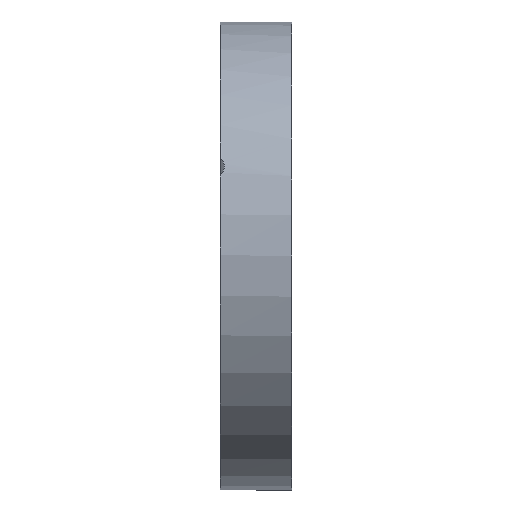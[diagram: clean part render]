
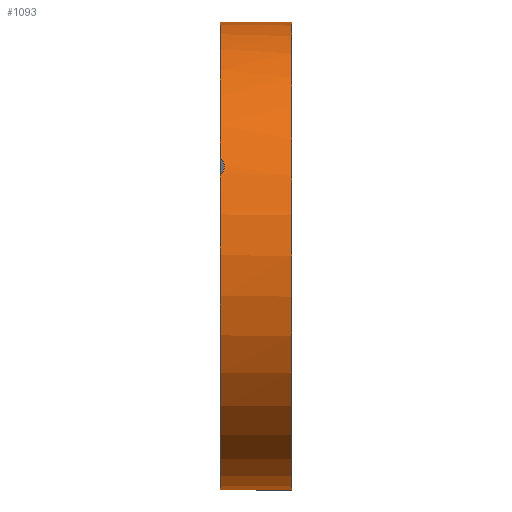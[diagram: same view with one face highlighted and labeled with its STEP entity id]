
A CAD part, left-side view. The second image highlights one B-rep face of the part: STEP entity #1093.
In plain terms, the highlighted cylindrical face has radius 57.15 mm (diameter 114.3 mm), a partial arc.
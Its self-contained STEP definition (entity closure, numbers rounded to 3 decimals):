
#42 = VERTEX_POINT ( 'NONE', #629 ) ;
#53 = CARTESIAN_POINT ( 'NONE',  ( -52.96, 16.522, 21.481 ) ) ;
#64 = CARTESIAN_POINT ( 'NONE',  ( -51.963, 17.342, 23.791 ) ) ;
#78 = EDGE_CURVE ( 'NONE', #1395, #878, #415, .T. ) ;
#88 = DIRECTION ( 'NONE',  ( 0., 1., 0. ) ) ;
#93 = ORIENTED_EDGE ( 'NONE', *, *, #196, .T. ) ;
#108 = DIRECTION ( 'NONE',  ( 0., 1., 0. ) ) ;
#113 = ORIENTED_EDGE ( 'NONE', *, *, #1027, .F. ) ;
#164 = LINE ( 'NONE', #1262, #1115 ) ;
#196 = EDGE_CURVE ( 'NONE', #1231, #42, #546, .T. ) ;
#226 = ORIENTED_EDGE ( 'NONE', *, *, #967, .F. ) ;
#236 = CYLINDRICAL_SURFACE ( 'NONE', #1225, 57.15 ) ;
#272 = DIRECTION ( 'NONE',  ( 0., 1., 0. ) ) ;
#288 = CARTESIAN_POINT ( 'NONE',  ( -53.566, 17.342, 19.921 ) ) ;
#295 = CARTESIAN_POINT ( 'NONE',  ( -53.512, 17.201, 20.066 ) ) ;
#307 = CIRCLE ( 'NONE', #1139, 57.15 ) ;
#322 = DIRECTION ( 'NONE',  ( 0., 1., 0. ) ) ;
#355 = DIRECTION ( 'NONE',  ( 0., 1., 0. ) ) ;
#403 = CARTESIAN_POINT ( 'NONE',  ( -53.113, 16.61, 21.098 ) ) ;
#414 = DIRECTION ( 'NONE',  ( 0., 0., 1. ) ) ;
#415 = CIRCLE ( 'NONE', #979, 57.15 ) ;
#490 = CARTESIAN_POINT ( 'NONE',  ( -53.615, 17.5, 19.788 ) ) ;
#501 = ORIENTED_EDGE ( 'NONE', *, *, #78, .F. ) ;
#503 = CARTESIAN_POINT ( 'NONE',  ( -52.88, 16.5, 21.677 ) ) ;
#532 = DIRECTION ( 'NONE',  ( 0., 0., 1. ) ) ;
#534 = CARTESIAN_POINT ( 'NONE',  ( 0., 0., -57.15 ) ) ;
#546 = LINE ( 'NONE', #780, #708 ) ;
#618 = VERTEX_POINT ( 'NONE', #534 ) ;
#629 = CARTESIAN_POINT ( 'NONE',  ( 0., 17.5, 57.15 ) ) ;
#634 = CARTESIAN_POINT ( 'NONE',  ( 0., 17.5, 0. ) ) ;
#640 = CARTESIAN_POINT ( 'NONE',  ( 0., 17.5, 0. ) ) ;
#659 = ORIENTED_EDGE ( 'NONE', *, *, #949, .T. ) ;
#694 = CARTESIAN_POINT ( 'NONE',  ( 0., 0., 0. ) ) ;
#703 = CARTESIAN_POINT ( 'NONE',  ( -52.167, 16.954, 23.341 ) ) ;
#708 = VECTOR ( 'NONE', #355, 1000. ) ;
#712 = B_SPLINE_CURVE_WITH_KNOTS ( 'NONE', 3,
 ( #490, #288, #295, #1042, #929, #1035, #403, #53, #503, #924, #1340, #1347, #1259, #1134, #703, #1238, #64, #722 ),
 .UNSPECIFIED., .F., .F.,
 ( 4, 2, 2, 2, 2, 2, 2, 2, 4 ),
 ( 0., 0.001, 0.001, 0.002, 0.003, 0.003, 0.004, 0.004, 0.005 ),
 .UNSPECIFIED. ) ;
#722 = CARTESIAN_POINT ( 'NONE',  ( -51.904, 17.5, 23.919 ) ) ;
#780 = CARTESIAN_POINT ( 'NONE',  ( 0., 0., 57.15 ) ) ;
#830 = CARTESIAN_POINT ( 'NONE',  ( 0., 17.5, -57.15 ) ) ;
#838 = EDGE_LOOP ( 'NONE', ( #226, #659, #93, #113, #919, #501 ) ) ;
#840 = DIRECTION ( 'NONE',  ( 0., 1., 0. ) ) ;
#878 = VERTEX_POINT ( 'NONE', #932 ) ;
#919 = ORIENTED_EDGE ( 'NONE', *, *, #1375, .F. ) ;
#924 = CARTESIAN_POINT ( 'NONE',  ( -52.72, 16.5, 22.064 ) ) ;
#926 = CARTESIAN_POINT ( 'NONE',  ( 0., 0., 0. ) ) ;
#929 = CARTESIAN_POINT ( 'NONE',  ( -53.326, 16.847, 20.556 ) ) ;
#932 = CARTESIAN_POINT ( 'NONE',  ( -53.615, 17.5, 19.788 ) ) ;
#949 = EDGE_CURVE ( 'NONE', #618, #1231, #307, .T. ) ;
#963 = VERTEX_POINT ( 'NONE', #1146 ) ;
#967 = EDGE_CURVE ( 'NONE', #618, #1395, #164, .T. ) ;
#979 = AXIS2_PLACEMENT_3D ( 'NONE', #634, #322, #414 ) ;
#982 = CIRCLE ( 'NONE', #1381, 57.15 ) ;
#1027 = EDGE_CURVE ( 'NONE', #963, #42, #982, .T. ) ;
#1032 = DIRECTION ( 'NONE',  ( 0., 0., 1. ) ) ;
#1035 = CARTESIAN_POINT ( 'NONE',  ( -53.186, 16.675, 20.913 ) ) ;
#1042 = CARTESIAN_POINT ( 'NONE',  ( -53.392, 16.954, 20.383 ) ) ;
#1093 = ADVANCED_FACE ( 'NONE', ( #1217 ), #236, .T. ) ;
#1100 = CARTESIAN_POINT ( 'NONE',  ( 0., 0., 57.15 ) ) ;
#1115 = VECTOR ( 'NONE', #840, 1000. ) ;
#1134 = CARTESIAN_POINT ( 'NONE',  ( -52.242, 16.847, 23.172 ) ) ;
#1139 = AXIS2_PLACEMENT_3D ( 'NONE', #926, #272, #1032 ) ;
#1146 = CARTESIAN_POINT ( 'NONE',  ( -51.904, 17.5, 23.919 ) ) ;
#1217 = FACE_OUTER_BOUND ( 'NONE', #838, .T. ) ;
#1225 = AXIS2_PLACEMENT_3D ( 'NONE', #694, #108, #1328 ) ;
#1231 = VERTEX_POINT ( 'NONE', #1100 ) ;
#1238 = CARTESIAN_POINT ( 'NONE',  ( -52.028, 17.201, 23.649 ) ) ;
#1259 = CARTESIAN_POINT ( 'NONE',  ( -52.396, 16.675, 22.821 ) ) ;
#1262 = CARTESIAN_POINT ( 'NONE',  ( 0., 0., -57.15 ) ) ;
#1328 = DIRECTION ( 'NONE',  ( 0., 0., 1. ) ) ;
#1340 = CARTESIAN_POINT ( 'NONE',  ( -52.638, 16.522, 22.258 ) ) ;
#1347 = CARTESIAN_POINT ( 'NONE',  ( -52.476, 16.61, 22.638 ) ) ;
#1375 = EDGE_CURVE ( 'NONE', #878, #963, #712, .T. ) ;
#1381 = AXIS2_PLACEMENT_3D ( 'NONE', #640, #88, #532 ) ;
#1395 = VERTEX_POINT ( 'NONE', #830 ) ;
